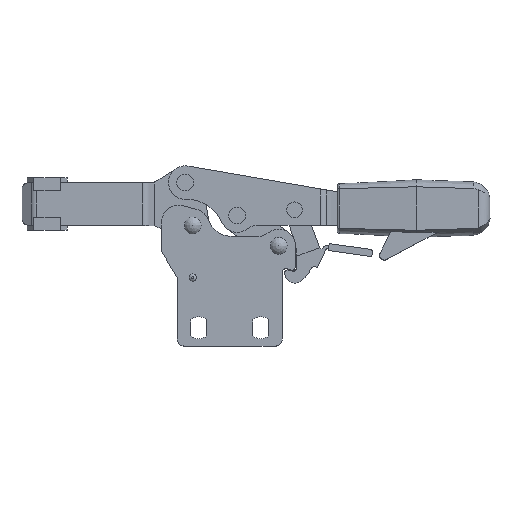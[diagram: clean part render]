
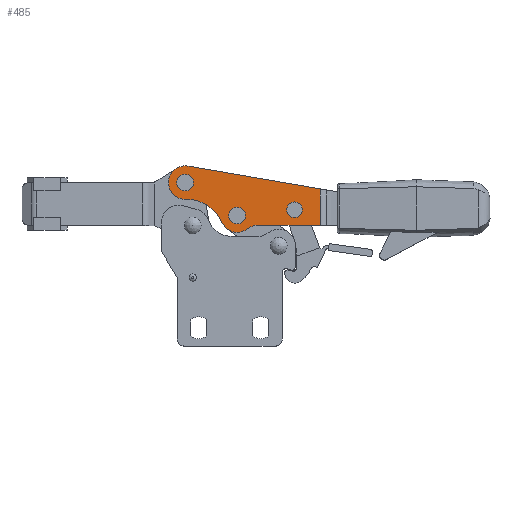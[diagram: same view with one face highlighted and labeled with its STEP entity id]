
A CAD part, top view. The second image highlights one B-rep face of the part: STEP entity #485.
In plain terms, the highlighted planar face has unit normal (0, 0, 1).
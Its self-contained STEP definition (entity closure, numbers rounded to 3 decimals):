
#485 = ADVANCED_FACE( '', ( #936, #937, #938, #939 ), #940, .T. );
#936 = FACE_OUTER_BOUND( '', #1658, .T. );
#937 = FACE_BOUND( '', #1659, .T. );
#938 = FACE_BOUND( '', #1660, .T. );
#939 = FACE_BOUND( '', #1661, .T. );
#940 = PLANE( '', #1662 );
#1658 = EDGE_LOOP( '', ( #3144, #3145, #3146, #3147, #3148, #3149, #3150 ) );
#1659 = EDGE_LOOP( '', ( #3151 ) );
#1660 = EDGE_LOOP( '', ( #3152 ) );
#1661 = EDGE_LOOP( '', ( #3153 ) );
#1662 = AXIS2_PLACEMENT_3D( '', #3154, #3155, #3156 );
#3144 = ORIENTED_EDGE( '', *, *, #4166, .F. );
#3145 = ORIENTED_EDGE( '', *, *, #4246, .T. );
#3146 = ORIENTED_EDGE( '', *, *, #4262, .T. );
#3147 = ORIENTED_EDGE( '', *, *, #4263, .F. );
#3148 = ORIENTED_EDGE( '', *, *, #4264, .T. );
#3149 = ORIENTED_EDGE( '', *, *, #4265, .F. );
#3150 = ORIENTED_EDGE( '', *, *, #4255, .T. );
#3151 = ORIENTED_EDGE( '', *, *, #4261, .F. );
#3152 = ORIENTED_EDGE( '', *, *, #4266, .F. );
#3153 = ORIENTED_EDGE( '', *, *, #4267, .F. );
#3154 = CARTESIAN_POINT( '', ( -3.169, 17.973, 6. ) );
#3155 = DIRECTION( '', ( 0., 0., 1. ) );
#3156 = DIRECTION( '', ( 1., 0., 0. ) );
#4166 = EDGE_CURVE( '', #5020, #5021, #5022, .F. );
#4246 = EDGE_CURVE( '', #5020, #5151, #5153, .T. );
#4255 = EDGE_CURVE( '', #5166, #5021, #5167, .T. );
#4261 = EDGE_CURVE( '', #5176, #5176, #5177, .T. );
#4262 = EDGE_CURVE( '', #5151, #5178, #5179, .T. );
#4263 = EDGE_CURVE( '', #5180, #5178, #5181, .T. );
#4264 = EDGE_CURVE( '', #5180, #5182, #5183, .T. );
#4265 = EDGE_CURVE( '', #5166, #5182, #5184, .T. );
#4266 = EDGE_CURVE( '', #5185, #5185, #5186, .T. );
#4267 = EDGE_CURVE( '', #5187, #5187, #5188, .T. );
#5020 = VERTEX_POINT( '', #6340 );
#5021 = VERTEX_POINT( '', #6341 );
#5022 = LINE( '', #6342, #6343 );
#5151 = VERTEX_POINT( '', #6557 );
#5153 = LINE( '', #6560, #6561 );
#5166 = VERTEX_POINT( '', #6578 );
#5167 = LINE( '', #6579, #6580 );
#5176 = VERTEX_POINT( '', #6591 );
#5177 = CIRCLE( '', #6592, 3.5 );
#5178 = VERTEX_POINT( '', #6593 );
#5179 = CIRCLE( '', #6594, 7. );
#5180 = VERTEX_POINT( '', #6595 );
#5181 = CIRCLE( '', #6596, 16. );
#5182 = VERTEX_POINT( '', #6597 );
#5183 = CIRCLE( '', #6598, 7. );
#5184 = CIRCLE( '', #6599, 7. );
#5185 = VERTEX_POINT( '', #6600 );
#5186 = CIRCLE( '', #6601, 3.5 );
#5187 = VERTEX_POINT( '', #6602 );
#5188 = CIRCLE( '', #6603, 3.25 );
#6340 = CARTESIAN_POINT( '', ( 53.448, 15.312, 6. ) );
#6341 = CARTESIAN_POINT( '', ( 53.451, 0.095, 6. ) );
#6342 = CARTESIAN_POINT( '', ( 53.457, -29.905, 6. ) );
#6343 = VECTOR( '', #7641, 1000. );
#6557 = CARTESIAN_POINT( '', ( -1.979, 24.871, 6. ) );
#6560 = CARTESIAN_POINT( '', ( 60.498, 14.096, 6. ) );
#6561 = VECTOR( '', #7790, 1000. );
#6578 = CARTESIAN_POINT( '', ( 27.195, 0.089, 6. ) );
#6579 = CARTESIAN_POINT( '', ( 27.195, 0.089, 6. ) );
#6580 = VECTOR( '', #7807, 1000. );
#6591 = CARTESIAN_POINT( '', ( 0.331, 17.973, 6. ) );
#6592 = AXIS2_PLACEMENT_3D( '', #7819, #7820, #7821 );
#6593 = CARTESIAN_POINT( '', ( -2.958, 10.976, 6. ) );
#6594 = AXIS2_PLACEMENT_3D( '', #7822, #7823, #7824 );
#6595 = CARTESIAN_POINT( '', ( 12.198, 1.362, 6. ) );
#6596 = AXIS2_PLACEMENT_3D( '', #7825, #7826, #7827 );
#6597 = CARTESIAN_POINT( '', ( 22.907, -1.379, 6. ) );
#6598 = AXIS2_PLACEMENT_3D( '', #7828, #7829, #7830 );
#6599 = AXIS2_PLACEMENT_3D( '', #7831, #7832, #7833 );
#6600 = CARTESIAN_POINT( '', ( 22.118, 4.153, 6. ) );
#6601 = AXIS2_PLACEMENT_3D( '', #7834, #7835, #7836 );
#6602 = CARTESIAN_POINT( '', ( 45.909, 6.592, 6. ) );
#6603 = AXIS2_PLACEMENT_3D( '', #7837, #7838, #7839 );
#7641 = DIRECTION( '', ( 0., 1., 0. ) );
#7790 = DIRECTION( '', ( -0.985, 0.17, 0. ) );
#7807 = DIRECTION( '', ( 1., 0., 0. ) );
#7819 = CARTESIAN_POINT( '', ( -3.169, 17.973, 6. ) );
#7820 = DIRECTION( '', ( 0., 0., 1. ) );
#7821 = DIRECTION( '', ( 1., 0., 0. ) );
#7822 = CARTESIAN_POINT( '', ( -3.169, 17.973, 6. ) );
#7823 = DIRECTION( '', ( 0., 0., 1. ) );
#7824 = DIRECTION( '', ( 1., 0., 0. ) );
#7825 = CARTESIAN_POINT( '', ( -2.475, -5.017, 6. ) );
#7826 = DIRECTION( '', ( 0., 0., 1. ) );
#7827 = DIRECTION( '', ( 1., 0., 0. ) );
#7828 = CARTESIAN_POINT( '', ( 18.618, 4.153, 6. ) );
#7829 = DIRECTION( '', ( 0., 0., 1. ) );
#7830 = DIRECTION( '', ( 1., 0., 0. ) );
#7831 = CARTESIAN_POINT( '', ( 27.196, -6.911, 6. ) );
#7832 = DIRECTION( '', ( 0., 0., 1. ) );
#7833 = DIRECTION( '', ( 1., 0., 0. ) );
#7834 = CARTESIAN_POINT( '', ( 18.618, 4.153, 6. ) );
#7835 = DIRECTION( '', ( 0., 0., 1. ) );
#7836 = DIRECTION( '', ( 1., 0., 0. ) );
#7837 = CARTESIAN_POINT( '', ( 42.659, 6.592, 6. ) );
#7838 = DIRECTION( '', ( 0., 0., 1. ) );
#7839 = DIRECTION( '', ( 1., 0., 0. ) );
